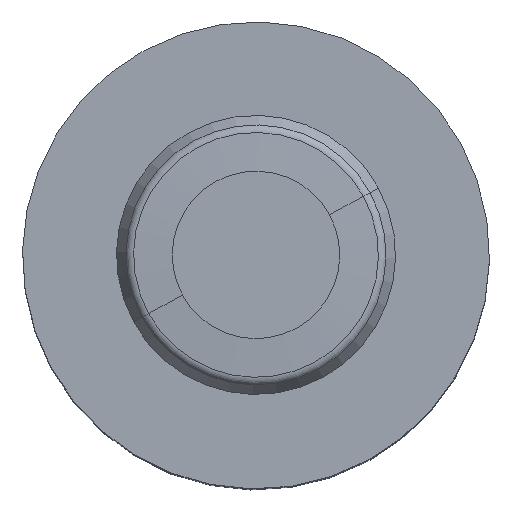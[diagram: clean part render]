
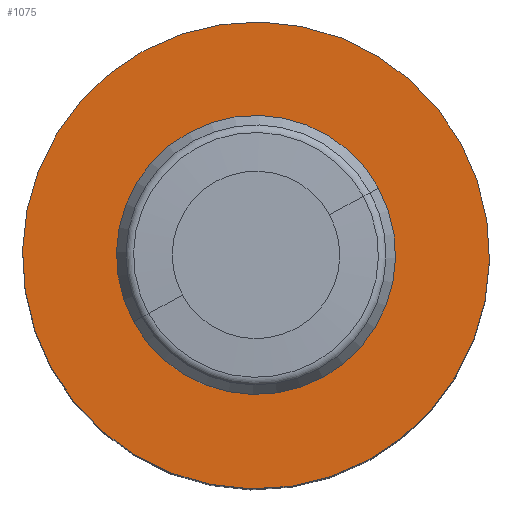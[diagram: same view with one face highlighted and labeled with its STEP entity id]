
A CAD part, top view. The second image highlights one B-rep face of the part: STEP entity #1075.
In plain terms, the highlighted planar face has unit normal (0, 0, 1).
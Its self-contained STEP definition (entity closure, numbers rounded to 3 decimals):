
#1052=CARTESIAN_POINT('Axis2P3D Location',(25.1,0.,55.)) ;
#1057=CARTESIAN_POINT('Axis2P3D Location',(0.,0.,55.)) ;
#1061=CARTESIAN_POINT('Vertex',(-22.027,-12.034,55.)) ;
#1063=CARTESIAN_POINT('Vertex',(22.027,12.034,55.)) ;
#1066=CARTESIAN_POINT('Axis2P3D Location',(0.,0.,55.)) ;
#1053=DIRECTION('Axis2P3D Direction',(0.,0.,1.)) ;
#1054=DIRECTION('Axis2P3D XDirection',(1.,0.,0.)) ;
#1058=DIRECTION('Axis2P3D Direction',(0.,0.,1.)) ;
#1067=DIRECTION('Axis2P3D Direction',(0.,0.,1.)) ;
#1055=AXIS2_PLACEMENT_3D('Plane Axis2P3D',#1052,#1053,#1054) ;
#1059=AXIS2_PLACEMENT_3D('Circle Axis2P3D',#1057,#1058,$) ;
#1068=AXIS2_PLACEMENT_3D('Circle Axis2P3D',#1066,#1067,$) ;
#1072=ORIENTED_EDGE('',*,*,#1065,.T.) ;
#1073=ORIENTED_EDGE('',*,*,#1070,.T.) ;
#1075=ADVANCED_FACE('',(#1074),#1056,.T.) ;
#1060=CIRCLE('generated circle',#1059,25.1) ;
#1069=CIRCLE('generated circle',#1068,25.1) ;
#1065=EDGE_CURVE('',#1062,#1064,#1060,.T.) ;
#1070=EDGE_CURVE('',#1064,#1062,#1069,.T.) ;
#1071=EDGE_LOOP('',(#1072,#1073)) ;
#1074=FACE_OUTER_BOUND('',#1071,.T.) ;
#1056=PLANE('Plane',#1055) ;
#1062=VERTEX_POINT('',#1061) ;
#1064=VERTEX_POINT('',#1063) ;
